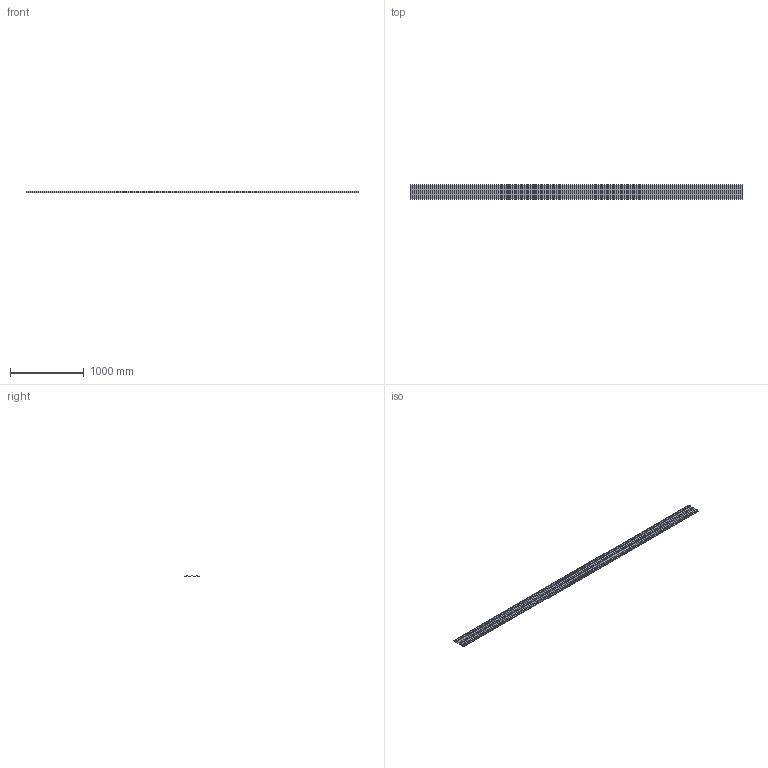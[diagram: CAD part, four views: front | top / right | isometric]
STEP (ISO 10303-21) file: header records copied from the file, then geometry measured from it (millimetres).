
FILE_DESCRIPTION (( 'STEP AP203' ), '1' );
FILE_NAME ('RAILEX STANDARD RXR-KPH.STEP', '2021-06-17T10:58:42', ( '' ), ( '' ), 'SwSTEP 2.0', 'SolidWorks 2020', '' );
FILE_SCHEMA (( 'CONFIG_CONTROL_DESIGN' ));
Length unit declared in the file: millimetre
Products named in the file (1): RAILEX STANDARD RXR-KPH
Bounding box: 4500 x 196 x 14 mm (x, y, z)
Volume: 3416756.4 mm3; surface area: 2165791.3 mm2
Topology: 1 solids, 1 shells, 30 faces, 84 edges, 56 vertices
Faces by surface type: plane 30
Entity records: 1025 total; most frequent: CARTESIAN_POINT 171, ORIENTED_EDGE 168, DIRECTION 146, LINE 84, VECTOR 84, EDGE_CURVE 84, VERTEX_POINT 56, AXIS2_PLACEMENT_3D 31
